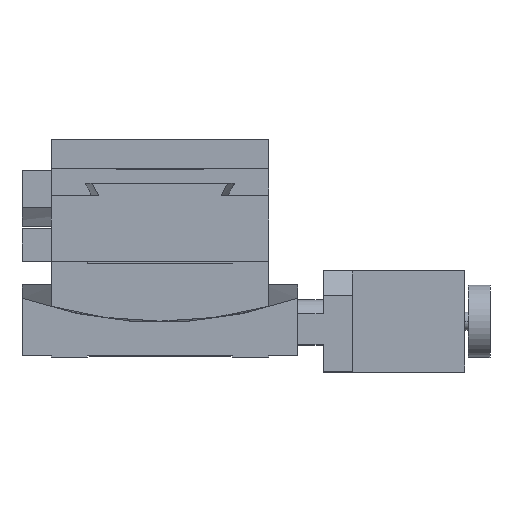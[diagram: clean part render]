
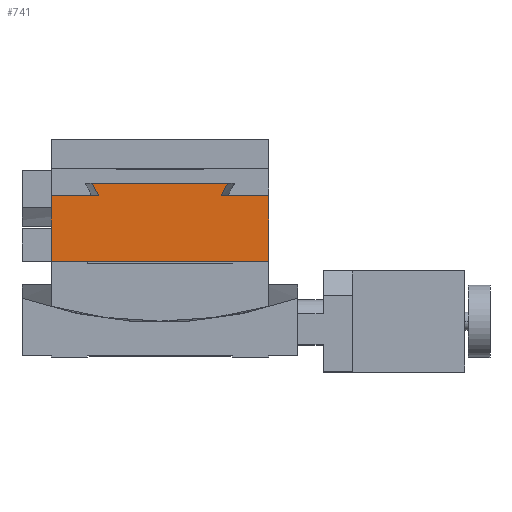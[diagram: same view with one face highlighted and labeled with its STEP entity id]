
A CAD part, top view. The second image highlights one B-rep face of the part: STEP entity #741.
In plain terms, the highlighted planar face has unit normal (0, 0, 1).
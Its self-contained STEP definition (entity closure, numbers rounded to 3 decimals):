
#232 = EDGE_CURVE ( 'NONE', #238, #239, #3086, .T. ) ;
#238 = VERTEX_POINT ( 'NONE', #3140 ) ;
#239 = VERTEX_POINT ( 'NONE', #3139 ) ;
#274 = VERTEX_POINT ( 'NONE', #3229 ) ;
#284 = EDGE_CURVE ( 'NONE', #274, #238, #3246, .T. ) ;
#332 = EDGE_CURVE ( 'NONE', #336, #334, #3304, .T. ) ;
#334 = VERTEX_POINT ( 'NONE', #3296 ) ;
#336 = VERTEX_POINT ( 'NONE', #3295 ) ;
#465 = ORIENTED_EDGE ( 'NONE', *, *, #684, .F. ) ;
#469 = VERTEX_POINT ( 'NONE', #3473 ) ;
#481 = ORIENTED_EDGE ( 'NONE', *, *, #284, .F. ) ;
#503 = EDGE_LOOP ( 'NONE', ( #481, #465, #677, #656, #648, #638, #639, #628 ) ) ;
#527 = EDGE_CURVE ( 'NONE', #239, #334, #3563, .T. ) ;
#628 = ORIENTED_EDGE ( 'NONE', *, *, #232, .F. ) ;
#638 = ORIENTED_EDGE ( 'NONE', *, *, #332, .T. ) ;
#639 = ORIENTED_EDGE ( 'NONE', *, *, #527, .F. ) ;
#645 = EDGE_CURVE ( 'NONE', #647, #655, #3777, .T. ) ;
#646 = EDGE_CURVE ( 'NONE', #336, #647, #3776, .T. ) ;
#647 = VERTEX_POINT ( 'NONE', #3775 ) ;
#648 = ORIENTED_EDGE ( 'NONE', *, *, #646, .F. ) ;
#653 = EDGE_CURVE ( 'NONE', #469, #655, #3765, .T. ) ;
#655 = VERTEX_POINT ( 'NONE', #3761 ) ;
#656 = ORIENTED_EDGE ( 'NONE', *, *, #645, .F. ) ;
#677 = ORIENTED_EDGE ( 'NONE', *, *, #653, .T. ) ;
#684 = EDGE_CURVE ( 'NONE', #469, #274, #3833, .T. ) ;
#741 = ADVANCED_FACE ( 'NONE', ( #3974 ), #3973, .F. ) ;
#3083 = DIRECTION ( 'NONE',  ( 0., -1., 0. ) ) ;
#3084 = VECTOR ( 'NONE', #3083, 1000. ) ;
#3085 = CARTESIAN_POINT ( 'NONE',  ( 30., 48., 38. ) ) ;
#3086 = LINE ( 'NONE', #3085, #3084 ) ;
#3139 = CARTESIAN_POINT ( 'NONE',  ( 30., 26.5, 38. ) ) ;
#3140 = CARTESIAN_POINT ( 'NONE',  ( 30., 44.517, 38. ) ) ;
#3229 = CARTESIAN_POINT ( 'NONE',  ( 16.863, 44.517, 38. ) ) ;
#3243 = DIRECTION ( 'NONE',  ( 1., 0., 0. ) ) ;
#3244 = VECTOR ( 'NONE', #3243, 1000. ) ;
#3245 = CARTESIAN_POINT ( 'NONE',  ( 0., 44.517, 38. ) ) ;
#3246 = LINE ( 'NONE', #3245, #3244 ) ;
#3295 = CARTESIAN_POINT ( 'NONE',  ( -30., 44.517, 38. ) ) ;
#3296 = CARTESIAN_POINT ( 'NONE',  ( -30., 26.5, 38. ) ) ;
#3301 = DIRECTION ( 'NONE',  ( 0., -1., 0. ) ) ;
#3302 = VECTOR ( 'NONE', #3301, 1000. ) ;
#3303 = CARTESIAN_POINT ( 'NONE',  ( -30., 48., 38. ) ) ;
#3304 = LINE ( 'NONE', #3303, #3302 ) ;
#3473 = CARTESIAN_POINT ( 'NONE',  ( 18.66, 48., 38. ) ) ;
#3560 = DIRECTION ( 'NONE',  ( -1., 0., 0. ) ) ;
#3561 = VECTOR ( 'NONE', #3560, 1000. ) ;
#3562 = CARTESIAN_POINT ( 'NONE',  ( 30., 26.5, 38. ) ) ;
#3563 = LINE ( 'NONE', #3562, #3561 ) ;
#3761 = CARTESIAN_POINT ( 'NONE',  ( -18.66, 48., 38. ) ) ;
#3762 = DIRECTION ( 'NONE',  ( -1., 0., 0. ) ) ;
#3763 = VECTOR ( 'NONE', #3762, 1000. ) ;
#3764 = CARTESIAN_POINT ( 'NONE',  ( 30., 48., 38. ) ) ;
#3765 = LINE ( 'NONE', #3764, #3763 ) ;
#3766 = DIRECTION ( 'NONE',  ( 1., 0., 0. ) ) ;
#3767 = VECTOR ( 'NONE', #3766, 1000. ) ;
#3768 = CARTESIAN_POINT ( 'NONE',  ( 0., 44.517, 38. ) ) ;
#3770 = CARTESIAN_POINT ( 'NONE',  ( -18.66, 48., 38. ) ) ;
#3772 = CARTESIAN_POINT ( 'NONE',  ( -18.063, 46.838, 38. ) ) ;
#3773 = CARTESIAN_POINT ( 'NONE',  ( -17.464, 45.677, 38. ) ) ;
#3774 = CARTESIAN_POINT ( 'NONE',  ( -16.863, 44.517, 38. ) ) ;
#3775 = CARTESIAN_POINT ( 'NONE',  ( -16.863, 44.517, 38. ) ) ;
#3776 = LINE ( 'NONE', #3768, #3767 ) ;
#3777 = B_SPLINE_CURVE_WITH_KNOTS ( 'NONE', 3,
 ( #3774, #3773, #3772, #3770 ),
 .UNSPECIFIED., .F., .F.,
 ( 4, 4 ),
 ( 0.025, 0.029 ),
 .UNSPECIFIED. ) ;
#3829 = CARTESIAN_POINT ( 'NONE',  ( 16.863, 44.517, 38. ) ) ;
#3830 = CARTESIAN_POINT ( 'NONE',  ( 17.464, 45.677, 38. ) ) ;
#3831 = CARTESIAN_POINT ( 'NONE',  ( 18.063, 46.838, 38. ) ) ;
#3832 = CARTESIAN_POINT ( 'NONE',  ( 18.66, 48., 38. ) ) ;
#3833 = B_SPLINE_CURVE_WITH_KNOTS ( 'NONE', 3,
 ( #3832, #3831, #3830, #3829 ),
 .UNSPECIFIED., .F., .F.,
 ( 4, 4 ),
 ( 0.021, 0.025 ),
 .UNSPECIFIED. ) ;
#3969 = DIRECTION ( 'NONE',  ( 0., 1., 0. ) ) ;
#3970 = DIRECTION ( 'NONE',  ( 0., 0., -1. ) ) ;
#3971 = CARTESIAN_POINT ( 'NONE',  ( 30., 48., 38. ) ) ;
#3972 = AXIS2_PLACEMENT_3D ( 'NONE', #3971, #3970, #3969 ) ;
#3973 = PLANE ( 'NONE',  #3972 ) ;
#3974 = FACE_OUTER_BOUND ( 'NONE', #503, .T. ) ;
